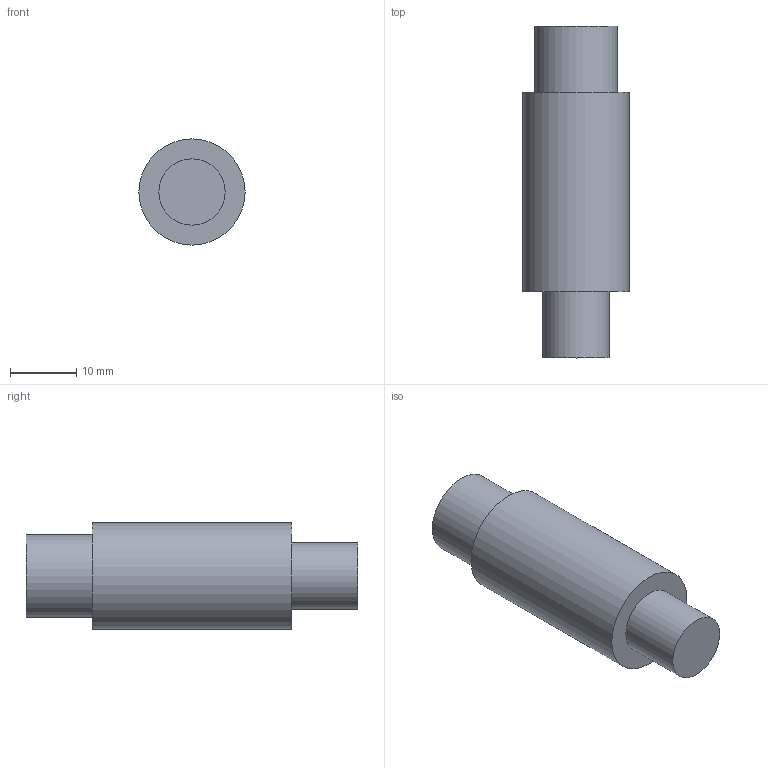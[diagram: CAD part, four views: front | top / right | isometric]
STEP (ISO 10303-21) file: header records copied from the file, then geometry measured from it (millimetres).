
FILE_DESCRIPTION(/* description */ (''),/* implementation_level */ '2;1');
FILE_NAME(/* name */ '//sv004/特品事業部/特品共通フォルダ/☆社外用データテスト/01_製品関連/0121_ライトガイド関連/3D図面/LGD 共通中継部.step',/* time_stamp */ '2022-09-27T14:43:02+09:00',/* author */ (''),/* organization */ (''),/* preprocessor_version */ 'ST-DEVELOPER v19',/* originating_system */ 'Autodesk Translation Framework v11.7.0.108',/* authorisation */ '');
FILE_SCHEMA (('AUTOMOTIVE_DESIGN { 1 0 10303 214 3 1 1 }'));
Length unit declared in the file: millimetre
Products named in the file (1): LGD 共通中継部
Bounding box: 16 x 50 x 16 mm (x, y, z)
Volume: 8044.4 mm3; surface area: 3019.5 mm2
Topology: 3 solids, 3 shells, 9 faces, 9 edges, 6 vertices
Faces by surface type: plane 6, cylinder 3
Full cylindrical faces by diameter (mm): 10 x1, 12.5 x1, 16 x1
Entity records: 200 total; most frequent: DIRECTION 35, CARTESIAN_POINT 25, ORIENTED_EDGE 18, AXIS2_PLACEMENT_3D 16, FACE_OUTER_BOUND 9, EDGE_LOOP 9, EDGE_CURVE 9, ADVANCED_FACE 9
